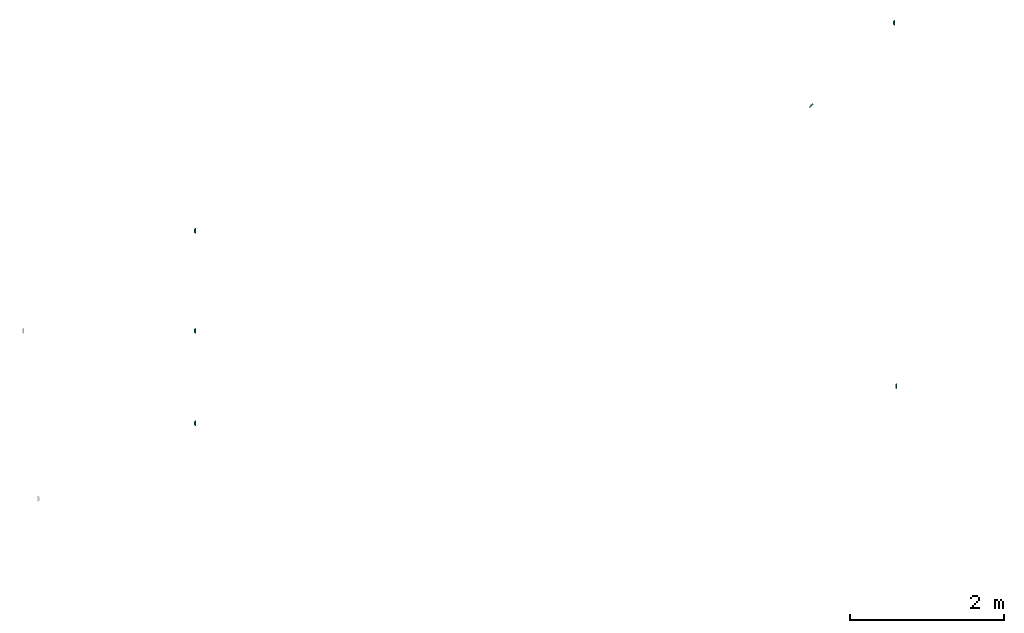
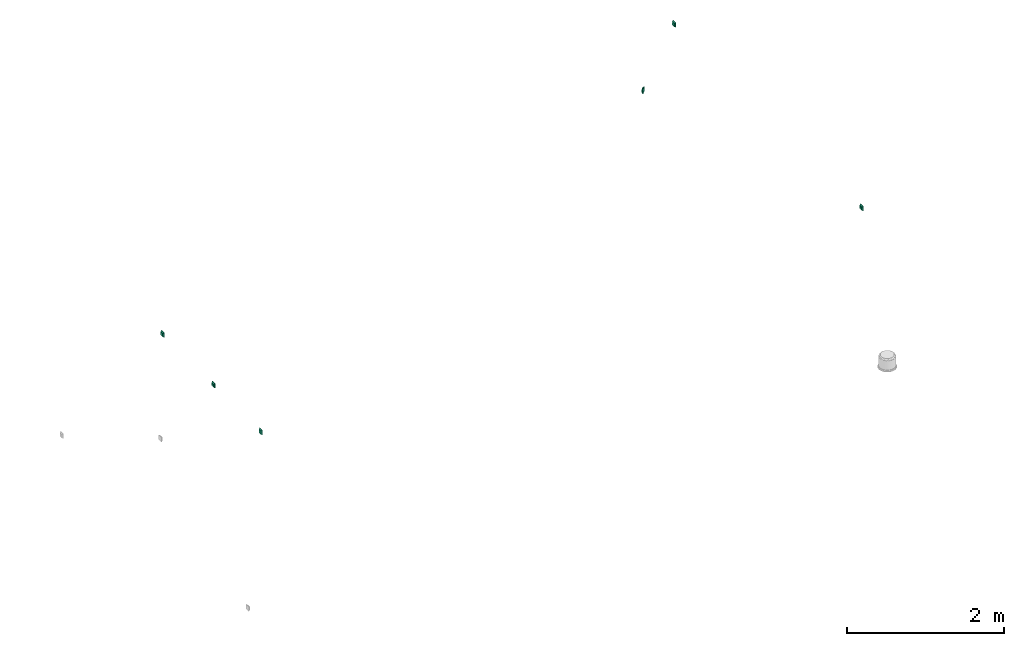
# One storey, part 5 of 5: 6 flow terminals.
"""IFC2X3 building model written with IfcOpenShell, lengths in millimetres."""

import ifcopenshell
import ifcopenshell.guid

model = None  # the IFC model being written
_history = None  # IfcOwnerHistory: only IFC2X3 demands one
_inside = {}  # id of a spatial element -> (the spatial element, [elements in it])
_under = {}  # id of a project, library or spatial element -> (it, [spatial elements below it])
_declared = {}  # id of a project -> (the project, [libraries it declares])
_typed = {}  # id of a type object -> (the type object, [elements of that type])
_made_of = {}  # id of a material, layer set ... -> (it, [elements and type objects made of it])


def new_model(schema):
    """Start an empty IFC model of exactly this schema.

    Asked for "IFC4X3", IfcOpenShell would pick the latest addendum, in which some entities
    have other attributes; the version numbers below select the first issue.
    IFC2X3 requires an IfcOwnerHistory on every rooted entity: one is made here for all.
    """
    global model, _history
    if schema == "IFC4X3":
        model = ifcopenshell.file(schema_version=(4, 3, 0, 0))
    else:
        model = ifcopenshell.file(schema=schema)
    _inside.clear()
    _under.clear()
    _declared.clear()
    _typed.clear()
    _made_of.clear()
    _history = None
    if model.schema == "IFC2X3":
        org = make("IfcOrganization", Name="unknown")
        user = make(
            "IfcPersonAndOrganization",
            ThePerson=make("IfcPerson", FamilyName="unknown"),
            TheOrganization=org,
        )
        app = make(
            "IfcApplication",
            ApplicationDeveloper=org,
            Version="unknown",
            ApplicationFullName="unknown",
            ApplicationIdentifier="unknown",
        )
        _history = make(
            "IfcOwnerHistory",
            OwningUser=user,
            OwningApplication=app,
            ChangeAction="ADDED",
            CreationDate=0,
        )
    return model


def make(cls, **values):
    """One entity of the class cls with the attributes given. An attribute that is None is left unset."""
    return model.create_entity(
        cls, **{name: value for name, value in values.items() if value is not None}
    )


def entity(cls, *values):
    """Any entity or typed value of the class cls, its attributes in the order of the schema. None: left unset."""
    e = model.create_entity(cls)
    for i, value in enumerate(values):
        if value is not None:
            e[i] = value
    return e


def rooted(cls, **values):
    """An entity with a GlobalId (a new one), such as an element, a storey or a relation."""
    return make(cls, GlobalId=ifcopenshell.guid.new(), OwnerHistory=_history, **values)


def si_unit(unit_type, name, prefix=None):
    """IfcSIUnit, for example si_unit("LENGTHUNIT", "METRE", prefix="MILLI")."""
    return make("IfcSIUnit", UnitType=unit_type, Prefix=prefix, Name=name)


def converted_unit(unit_type, name, factor, base, dimensions=None, offset=None):
    """IfcConversionBasedUnit, such as the inch: factor (a typed value) times the base unit."""
    return make(
        "IfcConversionBasedUnit"
        if offset is None
        else "IfcConversionBasedUnitWithOffset",
        ConversionOffset=offset,
        Dimensions=None
        if dimensions is None
        else entity("IfcDimensionalExponents", *dimensions),
        UnitType=unit_type,
        Name=name,
        ConversionFactor=make(
            "IfcMeasureWithUnit", ValueComponent=factor, UnitComponent=base
        ),
    )


def derived_unit(unit_type, elements):
    """IfcDerivedUnit: a product of units, each with its exponent."""
    return make(
        "IfcDerivedUnit",
        Elements=[
            make("IfcDerivedUnitElement", Unit=unit, Exponent=power)
            for unit, power in elements
        ],
        UnitType=unit_type,
    )


def assignment(units):
    """IfcUnitAssignment: the units of a project."""
    return None if units is None else make("IfcUnitAssignment", Units=units)


def point(xyz):
    """IfcCartesianPoint."""
    return None if xyz is None else make("IfcCartesianPoint", Coordinates=xyz)


def direction(xyz):
    """IfcDirection."""
    return None if xyz is None else make("IfcDirection", DirectionRatios=xyz)


def frame(location, z_axis=None, x_axis=None):
    """IfcAxis2Placement3D, a coordinate frame: its origin and axes. An axis left out is left unset."""
    return make(
        "IfcAxis2Placement3D",
        Location=point(location),
        Axis=direction(z_axis),
        RefDirection=direction(x_axis),
    )


def origin_with_axes():
    """The frame at (0, 0, 0) with the z axis (0, 0, 1) and the x axis (1, 0, 0) written out."""
    return frame((0.0, 0.0, 0.0), z_axis=(0.0, 0.0, 1.0), x_axis=(1.0, 0.0, 0.0))


def place(relative_to, where):
    """IfcLocalPlacement: puts the frame where relative to a parent placement (None: the world)."""
    return make(
        "IfcLocalPlacement", PlacementRelTo=relative_to, RelativePlacement=where
    )


def context(
    kind, dimensions, precision=None, world=None, true_north=None, identifier=None
):
    """IfcGeometricRepresentationContext, for example the 3D "Model" context."""
    return make(
        "IfcGeometricRepresentationContext",
        ContextIdentifier=identifier,
        ContextType=kind,
        CoordinateSpaceDimension=dimensions,
        Precision=precision,
        WorldCoordinateSystem=world,
        TrueNorth=true_north,
    )


def subcontext(parent, identifier, kind, view, scale=None):
    """IfcGeometricRepresentationSubContext, for example "Body" below "Model"."""
    return make(
        "IfcGeometricRepresentationSubContext",
        ContextIdentifier=identifier,
        ContextType=kind,
        ParentContext=parent,
        TargetScale=scale,
        TargetView=view,
    )


def project(units=None, contexts=None):
    """IfcProject with its units and contexts."""
    return rooted(
        "IfcProject",
        Name="project",
        RepresentationContexts=contexts,
        UnitsInContext=assignment(units),
    )


def spatial(cls, under=None, at=None, **own):
    """A site, building, storey or space (cls), placed at a placement, below another one or the project."""
    s = rooted(cls, ObjectPlacement=at, **own)
    if under is not None:
        _under.setdefault(under.id(), (under, []))[1].append(s)
    return s


def faces_of(points, faces, orient=None, outer=None):
    """IfcFace entities. A face is a list of loops; a loop is a list of indices into points, from 0.

    orient and outer hold one flag for each loop. By default every Orientation is true, the
    first loop of a face is its IfcFaceOuterBound and the others are IfcFaceBound.
    """
    made = []
    for i, loops in enumerate(faces):
        bounds = []
        for j, loop in enumerate(loops):
            is_outer = j == 0 if outer is None else outer[i][j]
            bounds.append(
                make(
                    "IfcFaceOuterBound" if is_outer else "IfcFaceBound",
                    Bound=make("IfcPolyLoop", Polygon=[points[k] for k in loop]),
                    Orientation=True if orient is None else orient[i][j],
                )
            )
        made.append(make("IfcFace", Bounds=bounds))
    return made


def open_shell(faces, orient=None, outer=None):
    """The faces of one IfcOpenShell. surface_model builds it on its shared points."""
    return ("IfcOpenShell", faces, orient, outer)


def surface_model(cls, points, shells):
    """IfcFaceBasedSurfaceModel or IfcShellBasedSurfaceModel (cls): surfaces that need not close."""
    shared = [point(p) for p in points]
    made = [make(c, CfsFaces=faces_of(shared, fs, o, b)) for c, fs, o, b in shells]
    if cls == "IfcFaceBasedSurfaceModel":
        return make(cls, FbsmFaces=made)
    return make(cls, SbsmBoundary=made)


def shape(context_of_items, identifier, shape_type, items):
    """IfcShapeRepresentation: the items that make up one representation, for example the "Body"."""
    return make(
        "IfcShapeRepresentation",
        ContextOfItems=context_of_items,
        RepresentationIdentifier=identifier,
        RepresentationType=shape_type,
        Items=items,
    )


def source(mapping_origin, context_of_items, identifier, shape_type, items):
    """IfcRepresentationMap: a shape defined once, which mapped items show again and again."""
    return make(
        "IfcRepresentationMap",
        MappingOrigin=mapping_origin,
        MappedRepresentation=shape(context_of_items, identifier, shape_type, items),
    )


def transform(
    local_origin,
    x_axis=None,
    y_axis=None,
    z_axis=None,
    scale=None,
    scale2=None,
    scale3=None,
    uniform=True,
):
    """IfcCartesianTransformationOperator3D, or its non-uniform kind. x_axis, y_axis, z_axis: its Axis1, 2, 3."""
    if uniform:
        return make(
            "IfcCartesianTransformationOperator3D",
            Axis1=direction(x_axis),
            Axis2=direction(y_axis),
            LocalOrigin=point(local_origin),
            Scale=scale,
            Axis3=direction(z_axis),
        )
    return make(
        "IfcCartesianTransformationOperator3DnonUniform",
        Axis1=direction(x_axis),
        Axis2=direction(y_axis),
        LocalOrigin=point(local_origin),
        Scale=scale,
        Axis3=direction(z_axis),
        Scale2=scale2,
        Scale3=scale3,
    )


def mapped(mapping_source, mapping_target):
    """IfcMappedItem: shows the shape of a source again, moved by a transform."""
    return make(
        "IfcMappedItem", MappingSource=mapping_source, MappingTarget=mapping_target
    )


def made_of(thing, what):
    """Note that an element or type object is made of a material, layer set ...; save() writes the relation."""
    if what is not None:
        _made_of.setdefault(what.id(), (what, []))[1].append(thing)
    return thing


def type_object(cls, material=None, **own):
    """A type object (cls), such as IfcWallType, which elements share."""
    return made_of(rooted(cls, **own), material)


def element(
    cls,
    number,
    at=None,
    inside=None,
    cuts=None,
    type_object=None,
    material=None,
    context=None,
    identifier="Body",
    shape_type=None,
    held_by="IfcProductDefinitionShape",
    body=None,
    shapes=None,
    **own,
):
    """One element of the class cls, such as IfcWall. Its Tag is "e" and its number.

    at: its placement. inside: the storey or other place that contains it. cuts: it is an
    opening in that element (IfcRelVoidsElement). A single representation is given by context,
    identifier, shape_type and body (its items); several are given by shapes. held_by: the class
    of the entity that holds the representations. save() writes the other relations.
    """
    e = rooted(cls, Tag="e%d" % number, ObjectPlacement=at, **own)
    if body is not None:
        shapes = [shape(context, identifier, shape_type, body)]
    if shapes is not None:
        e.Representation = make(held_by, Representations=shapes)
    if inside is not None:
        _inside.setdefault(inside.id(), (inside, []))[1].append(e)
    if cuts is not None:
        rooted(
            "IfcRelVoidsElement", RelatingBuildingElement=cuts, RelatedOpeningElement=e
        )
    if type_object is not None:
        _typed.setdefault(type_object.id(), (type_object, []))[1].append(e)
    return made_of(e, material)


def aggregate(whole, parts):
    """IfcRelAggregates: a whole, such as a stair, and the parts it consists of."""
    return rooted("IfcRelAggregates", RelatingObject=whole, RelatedObjects=parts)


def save(model, path):
    """Write the relations noted so far, then the file.

    IfcRelAggregates (storeys below a building ...), IfcRelContainedInSpatialStructure (elements
    in a storey), IfcRelDefinesByType, IfcRelAssociatesMaterial and IfcRelDeclares: one each for
    every whole, place, type object, material and project.
    """
    for whole, parts in _under.values():
        aggregate(whole, parts)
    for where, things in _inside.values():
        rooted(
            "IfcRelContainedInSpatialStructure",
            RelatedElements=things,
            RelatingStructure=where,
        )
    for kind, things in _typed.values():
        rooted("IfcRelDefinesByType", RelatedObjects=things, RelatingType=kind)
    for what, things in _made_of.values():
        rooted("IfcRelAssociatesMaterial", RelatedObjects=things, RelatingMaterial=what)
    for by, libraries in _declared.values():
        rooted("IfcRelDeclares", RelatingContext=by, RelatedDefinitions=libraries)
    model.write(path)


model = new_model("IFC2X3")

# Units and contexts
model_context = context("Model", 3, precision=0.01, world=frame((0.0, 4.29681676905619e-09, 0.0)), true_north=direction((4.01073788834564e-13, 1.0)))
plan_context = context("Plan", 3, precision=0.01, world=frame((0.0, 4.29681676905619e-09, 0.0)), true_north=direction((4.01073788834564e-13, 1.0)))
body_context = subcontext(model_context, "Body", "Model", "MODEL_VIEW")
ifc_project = project(units=[converted_unit("PLANEANGLEUNIT", "DEGREE", entity("IfcPositiveLengthMeasure", 0.0174532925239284), si_unit("PLANEANGLEUNIT", "RADIAN"), dimensions=[0, 0, 0, 0, 0, 0, 0]), si_unit("AREAUNIT", "SQUARE_METRE"), si_unit("LENGTHUNIT", "METRE", prefix="MILLI"), si_unit("MASSUNIT", "GRAM", prefix="KILO"), si_unit("POWERUNIT", "WATT"), si_unit("PRESSUREUNIT", "PASCAL"), si_unit("FORCEUNIT", "NEWTON", prefix="KILO"), si_unit("ELECTRICVOLTAGEUNIT", "VOLT"), si_unit("ELECTRICCURRENTUNIT", "AMPERE"), si_unit("THERMODYNAMICTEMPERATUREUNIT", "DEGREE_CELSIUS"), si_unit("TIMEUNIT", "SECOND"), si_unit("VOLUMEUNIT", "CUBIC_METRE"), derived_unit("LINEARVELOCITYUNIT", [(si_unit("LENGTHUNIT", "METRE"), 1), (si_unit("TIMEUNIT", "SECOND"), -1)]), derived_unit("VOLUMETRICFLOWRATEUNIT", [(si_unit("VOLUMEUNIT", "CUBIC_METRE"), 1), (si_unit("TIMEUNIT", "SECOND"), -1)]), derived_unit("THERMALTRANSMITTANCEUNIT", [(si_unit("POWERUNIT", "WATT"), 1), (si_unit("THERMODYNAMICTEMPERATUREUNIT", "KELVIN"), -1), (si_unit("AREAUNIT", "SQUARE_METRE"), -1)]), derived_unit("SOUNDPRESSUREUNIT", [(si_unit("PRESSUREUNIT", "PASCAL"), 1)])], contexts=[model_context, plan_context])

# Site, building, storey
site_placement = place(None, frame((0.0, -4.29681676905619e-09, 0.0), z_axis=(0.0, 0.0, 1.0), x_axis=(1.0, 0.0, 0.0)))
site = spatial("IfcSite", under=ifc_project, at=site_placement, Name="ENGM", CompositionType="ELEMENT")
building_placement = place(site_placement, frame((0.0, 4.29681676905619e-09, 0.0), z_axis=(0.0, 0.0, 1.0), x_axis=(1.0, 0.0, 0.0)))
building = spatial("IfcBuilding", under=site, at=building_placement, Name="TS", CompositionType="ELEMENT")
storey_placement = place(building_placement, frame((0.0, 0.0, 210900.0), z_axis=(0.0, 0.0, 1.0), x_axis=(1.0, 0.0, 0.0)))
storey = spatial("IfcBuildingStorey", under=building, at=storey_placement, Name="Nivå F", CompositionType="ELEMENT", Elevation=210900.0)

# Flow terminals
outlet_type_1 = type_object("IfcOutletType", Name="Datauttak dobbel Vegg - IKT", PredefinedType="COMMUNICATIONSOUTLET")
shared_shape_1 = source(origin_with_axes(), body_context, "Body", "SurfaceModel", [
    surface_model("IfcShellBasedSurfaceModel", [(35.5, 5.05547, 35.5832), (25.5, 20.05547, 25.5832), (-35.5, 5.05547, 35.5832), (-25.5, 20.05547, 25.5832), (-35.5, 4.94453, 35.41679), (-25.5, 19.94453, 25.41679), (25.5, 19.94453, 25.41679), (35.5, 4.94453, 35.41679), (35.5, 4.94453, -35.41679), (25.5, 19.94453, -25.41679), (-35.5, 4.94453, -35.41679), (-25.5, 19.94453, -25.41679), (-35.5, 5.05547, -35.5832), (-25.5, 20.05547, -25.5832), (25.5, 20.05547, -25.5832), (35.5, 5.05547, -35.5832), (-25.5832, 20.05547, -25.5), (-35.5832, 5.05547, -35.5), (-35.5832, 5.05547, 35.5), (-25.5832, 20.05547, 25.5), (-25.41679, 19.94453, 25.5), (-35.41679, 4.94453, 35.5), (-25.41679, 19.94453, -25.5), (-35.41679, 4.94453, -35.5), (25.41679, 19.94453, -25.5), (35.41679, 4.94453, -35.5), (35.41679, 4.94453, 35.5), (25.41679, 19.94453, 25.5), (25.5832, 20.05547, 25.5), (35.5832, 5.05547, 35.5), (25.5832, 20.05547, -25.5), (35.5832, 5.05547, -35.5), (35.4, 5.0, -35.5), (35.4, 0.0, -35.5), (35.4, 0.0, 35.5), (35.4, 5.0, 35.5), (35.6, 5.0, 35.5), (35.6, 0.0, 35.5), (35.6, 0.0, -35.5), (35.6, 5.0, -35.5), (-35.5, 0.0, -35.6), (-35.5, 5.0, -35.6), (35.5, 5.0, -35.6), (35.5, 0.0, -35.6), (35.5, 0.0, -35.4), (35.5, 5.0, -35.4), (-35.5, 5.0, -35.4), (-35.5, 0.0, -35.4), (-35.6, 5.0, -35.5), (-35.6, 0.0, -35.5), (-35.6, 0.0, 35.5), (-35.6, 5.0, 35.5), (-35.4, 5.0, 35.5), (-35.4, 0.0, 35.5), (-35.4, 0.0, -35.5), (-35.4, 5.0, -35.5), (-35.5, -0.1, -35.5), (35.5, -0.1, -35.5), (35.5, -0.1, 35.5), (-35.5, -0.1, 35.5), (-35.5, 0.1, 35.5), (35.5, 0.1, 35.5), (35.5, 0.1, -35.5), (-35.5, 0.1, -35.5), (-35.5, 0.0, 35.4), (-35.5, 5.0, 35.4), (35.5, 5.0, 35.4), (35.5, 0.0, 35.4), (35.5, 0.0, 35.6), (35.5, 5.0, 35.6), (-35.5, 5.0, 35.6), (-35.5, 0.0, 35.6), (-25.5, 19.9, -25.5), (25.5, 19.9, -25.5), (25.5, 19.9, 25.5), (-25.5, 19.9, 25.5), (-25.5, 20.1, 25.5), (25.5, 20.1, 25.5), (25.5, 20.1, -25.5), (-25.5, 20.1, -25.5), (-25.5, 22.0, 25.5), (-25.5, 20.0, 25.5), (25.5, 20.0, 25.5), (25.5, 22.0, 25.5), (25.5, 22.0, 20.5), (25.5, 20.0, 20.5), (-25.5, 20.0, 20.5), (-25.5, 22.0, 20.5), (-25.5, 22.0, 10.5), (-25.5, 20.0, 10.5), (25.5, 20.0, 10.5), (25.5, 22.0, 10.5), (25.5, 22.0, -25.5), (25.5, 20.0, -25.5), (-25.5, 20.0, -25.5), (-25.5, 22.0, -25.5), (-17.5, 21.91, -6.5), (-2.5, 21.91, -6.5), (-17.5, 21.91, 8.5), (-2.5, 21.91, 8.5), (-17.5, 22.11, 8.5), (-2.5, 22.11, 8.5), (-17.5, 22.11, -6.5), (-2.5, 22.11, -6.5), (2.5, 21.91, -6.5), (17.5, 21.91, -6.5), (17.5, 21.91, 8.5), (2.5, 21.91, 8.5), (2.5, 22.11, 8.5), (17.5, 22.11, 8.5), (2.5, 22.11, -6.5), (17.5, 22.11, -6.5)], [open_shell([[[0, 1, 2]], [[3, 2, 1]], [[4, 5, 6]], [[6, 7, 4]], [[3, 1, 6]], [[6, 5, 3]], [[2, 3, 4]], [[5, 4, 3]], [[0, 2, 7]], [[4, 7, 2]], [[1, 0, 6]], [[7, 6, 0]], [[8, 9, 10]], [[11, 10, 9]], [[12, 13, 14]], [[14, 15, 12]], [[11, 9, 14]], [[14, 13, 11]], [[10, 11, 12]], [[13, 12, 11]], [[8, 10, 12]], [[12, 15, 8]], [[9, 8, 14]], [[15, 14, 8]], [[16, 17, 18]], [[18, 19, 16]], [[20, 21, 22]], [[23, 22, 21]], [[18, 17, 23]], [[23, 21, 18]], [[19, 18, 20]], [[21, 20, 18]], [[16, 19, 20]], [[20, 22, 16]], [[17, 16, 22]], [[22, 23, 17]], [[24, 25, 26]], [[26, 27, 24]], [[28, 29, 30]], [[31, 30, 29]], [[26, 25, 31]], [[31, 29, 26]], [[27, 26, 28]], [[29, 28, 26]], [[24, 27, 28]], [[28, 30, 24]], [[25, 24, 30]], [[30, 31, 25]], [[32, 33, 34]], [[34, 35, 32]], [[36, 37, 38]], [[38, 39, 36]], [[34, 33, 38]], [[38, 37, 34]], [[35, 34, 37]], [[37, 36, 35]], [[32, 35, 36]], [[36, 39, 32]], [[33, 32, 39]], [[39, 38, 33]], [[40, 41, 42]], [[42, 43, 40]], [[44, 45, 46]], [[46, 47, 44]], [[42, 41, 46]], [[46, 45, 42]], [[43, 42, 45]], [[45, 44, 43]], [[40, 43, 44]], [[44, 47, 40]], [[41, 40, 47]], [[47, 46, 41]], [[48, 49, 50]], [[50, 51, 48]], [[52, 53, 54]], [[54, 55, 52]], [[50, 49, 54]], [[54, 53, 50]], [[51, 50, 53]], [[53, 52, 51]], [[48, 51, 52]], [[52, 55, 48]], [[49, 48, 55]], [[55, 54, 49]], [[56, 57, 58]], [[58, 59, 56]], [[60, 61, 62]], [[62, 63, 60]], [[58, 57, 62]], [[62, 61, 58]], [[59, 58, 61]], [[61, 60, 59]], [[56, 59, 60]], [[60, 63, 56]], [[57, 56, 63]], [[63, 62, 57]], [[64, 65, 66]], [[66, 67, 64]], [[68, 69, 70]], [[70, 71, 68]], [[66, 65, 70]], [[70, 69, 66]], [[67, 66, 69]], [[69, 68, 67]], [[64, 67, 68]], [[68, 71, 64]], [[65, 64, 71]], [[71, 70, 65]], [[72, 73, 74]], [[74, 75, 72]], [[76, 77, 78]], [[78, 79, 76]], [[74, 73, 78]], [[78, 77, 74]], [[75, 74, 77]], [[77, 76, 75]], [[72, 75, 76]], [[76, 79, 72]], [[73, 72, 79]], [[79, 78, 73]], [[80, 81, 82]], [[82, 83, 80]], [[84, 85, 86]], [[86, 87, 84]], [[82, 81, 86]], [[86, 85, 82]], [[83, 82, 85]], [[85, 84, 83]], [[80, 83, 84]], [[84, 87, 80]], [[81, 80, 87]], [[87, 86, 81]], [[88, 89, 90]], [[90, 91, 88]], [[92, 93, 94]], [[94, 95, 92]], [[90, 89, 94]], [[94, 93, 90]], [[91, 90, 93]], [[93, 92, 91]], [[88, 91, 92]], [[92, 95, 88]], [[89, 88, 95]], [[95, 94, 89]], [[96, 97, 98]], [[99, 98, 97]], [[100, 101, 102]], [[103, 102, 101]], [[99, 97, 103]], [[103, 101, 99]], [[98, 99, 101]], [[101, 100, 98]], [[96, 98, 100]], [[100, 102, 96]], [[97, 96, 102]], [[102, 103, 97]], [[104, 105, 106]], [[106, 107, 104]], [[108, 109, 110]], [[111, 110, 109]], [[106, 105, 111]], [[111, 109, 106]], [[107, 106, 109]], [[109, 108, 107]], [[104, 107, 108]], [[108, 110, 104]], [[105, 104, 110]], [[110, 111, 105]]])]),
])
for number, where, z_axis, x_axis, name in (
    (1, (525615.57729, 455553.96624, 800.0), (0.0, 0.0, 1.0), (0.0, 1.0, 0.0), "Datauttak dobbel Vegg - IKT"),
    (2, (525615.57729, 456853.96624, 800.0), (0.0, 0.0, 1.0), (0.0, 1.0, 0.0), "Datauttak dobbel Vegg - IKT"),
    (3, (534697.0, 459557.55, 800.0), (0.0, 0.0, 1.0), (0.0, 1.0, 0.0), "Datauttak dobbel Vegg - IKT"),
    (4, (534725.0, 454835.29851, 800.0), (0.0, 0.0, 1.0), (0.0, 1.0, 0.0), "Datauttak dobbel Vegg - IKT"),
):
    element("IfcFlowTerminal", number, at=place(storey_placement, frame(where, z_axis=z_axis, x_axis=x_axis)), inside=storey, type_object=outlet_type_1, Name=name, context=body_context, shape_type="MappedRepresentation", body=[
        mapped(shared_shape_1, transform((0.0, 0.0, 0.0), scale=1.0)),
    ])
outlet_type_2 = type_object("IfcOutletType", Name="Datauttak enkelt Vegg - IKT", PredefinedType="COMMUNICATIONSOUTLET")
shared_shape_2 = source(origin_with_axes(), body_context, "Body", "SurfaceModel", [
    surface_model("IfcShellBasedSurfaceModel", [(35.5, 5.05547, 35.5832), (25.5, 20.05547, 25.5832), (-35.5, 5.05547, 35.5832), (-25.5, 20.05547, 25.5832), (-35.5, 4.94453, 35.41679), (-25.5, 19.94453, 25.41679), (25.5, 19.94453, 25.41679), (35.5, 4.94453, 35.41679), (35.5, 4.94453, -35.41679), (25.5, 19.94453, -25.41679), (-35.5, 4.94453, -35.41679), (-25.5, 19.94453, -25.41679), (-35.5, 5.05547, -35.5832), (-25.5, 20.05547, -25.5832), (25.5, 20.05547, -25.5832), (35.5, 5.05547, -35.5832), (-25.5832, 20.05547, -25.5), (-35.5832, 5.05547, -35.5), (-35.5832, 5.05547, 35.5), (-25.5832, 20.05547, 25.5), (-25.41679, 19.94453, 25.5), (-35.41679, 4.94453, 35.5), (-25.41679, 19.94453, -25.5), (-35.41679, 4.94453, -35.5), (25.41679, 19.94453, -25.5), (35.41679, 4.94453, -35.5), (35.41679, 4.94453, 35.5), (25.41679, 19.94453, 25.5), (25.5832, 20.05547, 25.5), (35.5832, 5.05547, 35.5), (25.5832, 20.05547, -25.5), (35.5832, 5.05547, -35.5), (35.4, 5.0, -35.5), (35.4, 0.0, -35.5), (35.4, 0.0, 35.5), (35.4, 5.0, 35.5), (35.6, 5.0, 35.5), (35.6, 0.0, 35.5), (35.6, 0.0, -35.5), (35.6, 5.0, -35.5), (-35.5, 0.0, -35.6), (-35.5, 5.0, -35.6), (35.5, 5.0, -35.6), (35.5, 0.0, -35.6), (35.5, 0.0, -35.4), (35.5, 5.0, -35.4), (-35.5, 5.0, -35.4), (-35.5, 0.0, -35.4), (-35.6, 5.0, -35.5), (-35.6, 0.0, -35.5), (-35.6, 0.0, 35.5), (-35.6, 5.0, 35.5), (-35.4, 5.0, 35.5), (-35.4, 0.0, 35.5), (-35.4, 0.0, -35.5), (-35.4, 5.0, -35.5), (-35.5, -0.1, -35.5), (35.5, -0.1, -35.5), (35.5, -0.1, 35.5), (-35.5, -0.1, 35.5), (-35.5, 0.1, 35.5), (35.5, 0.1, 35.5), (35.5, 0.1, -35.5), (-35.5, 0.1, -35.5), (-35.5, 0.0, 35.4), (-35.5, 5.0, 35.4), (35.5, 5.0, 35.4), (35.5, 0.0, 35.4), (35.5, 0.0, 35.6), (35.5, 5.0, 35.6), (-35.5, 5.0, 35.6), (-35.5, 0.0, 35.6), (-25.5, 19.9, -25.5), (25.5, 19.9, -25.5), (25.5, 19.9, 25.5), (-25.5, 19.9, 25.5), (-25.5, 20.1, 25.5), (25.5, 20.1, 25.5), (25.5, 20.1, -25.5), (-25.5, 20.1, -25.5), (-7.5, 21.91, -6.5), (7.5, 21.91, -6.5), (7.5, 21.91, 8.5), (-7.5, 21.91, 8.5), (-7.5, 22.11, 8.5), (7.5, 22.11, 8.5), (-7.5, 22.11, -6.5), (7.5, 22.11, -6.5), (-25.5, 22.0, 25.5), (-25.5, 20.0, 25.5), (25.5, 20.0, 25.5), (25.5, 22.0, 25.5), (25.5, 22.0, 20.5), (25.5, 20.0, 20.5), (-25.5, 20.0, 20.5), (-25.5, 22.0, 20.5), (-25.5, 22.0, 10.5), (-25.5, 20.0, 10.5), (25.5, 20.0, 10.5), (25.5, 22.0, 10.5), (25.5, 22.0, -25.5), (25.5, 20.0, -25.5), (-25.5, 20.0, -25.5), (-25.5, 22.0, -25.5)], [open_shell([[[0, 1, 2]], [[3, 2, 1]], [[4, 5, 6]], [[6, 7, 4]], [[3, 1, 6]], [[6, 5, 3]], [[2, 3, 4]], [[5, 4, 3]], [[0, 2, 7]], [[4, 7, 2]], [[1, 0, 6]], [[7, 6, 0]], [[8, 9, 10]], [[11, 10, 9]], [[12, 13, 14]], [[14, 15, 12]], [[11, 9, 14]], [[14, 13, 11]], [[10, 11, 12]], [[13, 12, 11]], [[8, 10, 12]], [[12, 15, 8]], [[9, 8, 14]], [[15, 14, 8]], [[16, 17, 18]], [[18, 19, 16]], [[20, 21, 22]], [[23, 22, 21]], [[18, 17, 23]], [[23, 21, 18]], [[19, 18, 20]], [[21, 20, 18]], [[16, 19, 20]], [[20, 22, 16]], [[17, 16, 22]], [[22, 23, 17]], [[24, 25, 26]], [[26, 27, 24]], [[28, 29, 30]], [[31, 30, 29]], [[26, 25, 31]], [[31, 29, 26]], [[27, 26, 28]], [[29, 28, 26]], [[24, 27, 28]], [[28, 30, 24]], [[25, 24, 30]], [[30, 31, 25]], [[32, 33, 34]], [[34, 35, 32]], [[36, 37, 38]], [[38, 39, 36]], [[34, 33, 38]], [[38, 37, 34]], [[35, 34, 37]], [[37, 36, 35]], [[32, 35, 36]], [[36, 39, 32]], [[33, 32, 39]], [[39, 38, 33]], [[40, 41, 42]], [[42, 43, 40]], [[44, 45, 46]], [[46, 47, 44]], [[42, 41, 46]], [[46, 45, 42]], [[43, 42, 45]], [[45, 44, 43]], [[40, 43, 44]], [[44, 47, 40]], [[41, 40, 47]], [[47, 46, 41]], [[48, 49, 50]], [[50, 51, 48]], [[52, 53, 54]], [[54, 55, 52]], [[50, 49, 54]], [[54, 53, 50]], [[51, 50, 53]], [[53, 52, 51]], [[48, 51, 52]], [[52, 55, 48]], [[49, 48, 55]], [[55, 54, 49]], [[56, 57, 58]], [[58, 59, 56]], [[60, 61, 62]], [[62, 63, 60]], [[58, 57, 62]], [[62, 61, 58]], [[59, 58, 61]], [[61, 60, 59]], [[56, 59, 60]], [[60, 63, 56]], [[57, 56, 63]], [[63, 62, 57]], [[64, 65, 66]], [[66, 67, 64]], [[68, 69, 70]], [[70, 71, 68]], [[66, 65, 70]], [[70, 69, 66]], [[67, 66, 69]], [[69, 68, 67]], [[64, 67, 68]], [[68, 71, 64]], [[65, 64, 71]], [[71, 70, 65]], [[72, 73, 74]], [[74, 75, 72]], [[76, 77, 78]], [[78, 79, 76]], [[74, 73, 78]], [[78, 77, 74]], [[75, 74, 77]], [[77, 76, 75]], [[72, 75, 76]], [[76, 79, 72]], [[73, 72, 79]], [[79, 78, 73]], [[80, 81, 82]], [[82, 83, 80]], [[84, 85, 86]], [[87, 86, 85]], [[82, 81, 87]], [[87, 85, 82]], [[83, 82, 85]], [[85, 84, 83]], [[80, 83, 84]], [[84, 86, 80]], [[81, 80, 86]], [[86, 87, 81]], [[88, 89, 90]], [[90, 91, 88]], [[92, 93, 94]], [[94, 95, 92]], [[90, 89, 94]], [[94, 93, 90]], [[91, 90, 93]], [[93, 92, 91]], [[88, 91, 92]], [[92, 95, 88]], [[89, 88, 95]], [[95, 94, 89]], [[96, 97, 98]], [[98, 99, 96]], [[100, 101, 102]], [[102, 103, 100]], [[98, 97, 102]], [[102, 101, 98]], [[99, 98, 101]], [[101, 100, 99]], [[96, 99, 100]], [[100, 103, 96]], [[97, 96, 103]], [[103, 102, 97]]])]),
])
for number, where, z_axis, x_axis, name in (
    (5, (525615.57729, 454353.96624, 800.0), (0.0, 0.0, 1.0), (0.0, 1.0, 0.0), "Datauttak enkelt Vegg - IKT"),
    (6, (533619.51771, 458475.50929, 800.0), (0.0, 0.0, 1.0), (0.707106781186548, 0.707106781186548, 0.0), "Datauttak enkelt Vegg - IKT"),
):
    element("IfcFlowTerminal", number, at=place(storey_placement, frame(where, z_axis=z_axis, x_axis=x_axis)), inside=storey, type_object=outlet_type_2, Name=name, context=body_context, shape_type="MappedRepresentation", body=[
        mapped(shared_shape_2, transform((0.0, 0.0, 0.0), scale=1.0)),
    ])

save(model, "model.ifc")
